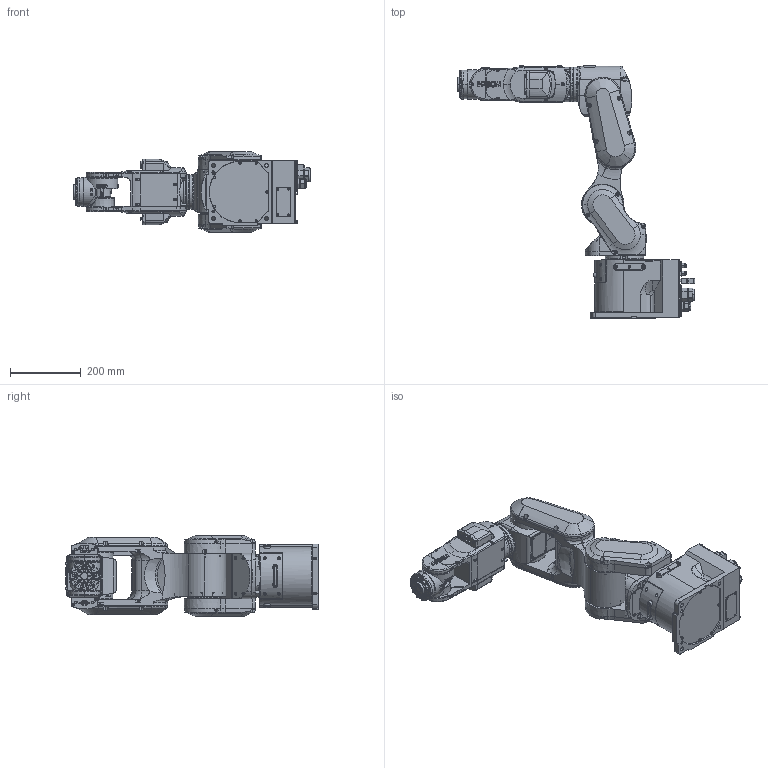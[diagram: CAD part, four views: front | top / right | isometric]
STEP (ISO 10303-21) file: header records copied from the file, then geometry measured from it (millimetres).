
FILE_DESCRIPTION (( 'STEP AP214' ), '1' );
FILE_NAME ('CX7-x701S.STEP', '2026-07-24T19:53:06', ( '' ), ( '' ), 'SwSTEP 2.0', 'SolidWorks 2020', '' );
FILE_SCHEMA (( 'AUTOMOTIVE_DESIGN' ));
Length unit declared in the file: millimetre
Products named in the file (8): CX7-x701S; CX7-A701S_J6; CX7-A701S_J5; CX7-A701S_J4; CX7-A701S_J2; CX7-A701S_BASE; CX7-A701S_J3; CX7-A701S_J1
Assembly tree (7 placements, depth 2):
  CX7-x701S
    CX7-A701S_BASE
    CX7-A701S_J1
    CX7-A701S_J2
    CX7-A701S_J3
    CX7-A701S_J4
    CX7-A701S_J5
    CX7-A701S_J6
Bounding box: 672 x 712 x 228 mm (x, y, z)
Volume: 7848324.4 mm3; surface area: 1110486.5 mm2
Topology: 4 solids, 9 shells, 4094 faces, 10175 edges, 6316 vertices
Faces by surface type: plane 1496, cylinder 1357, cone 765, torus 339, sphere 69, bspline 68
Entity records: 187593 total; most frequent: CARTESIAN_POINT 83396, ORIENTED_EDGE 20016, DIRECTION 12873, EDGE_CURVE 10017, B_SPLINE_CURVE_WITH_KNOTS 6854, VERTEX_POINT 6316, AXIS2_PLACEMENT_3D 5700, EDGE_LOOP 4499
